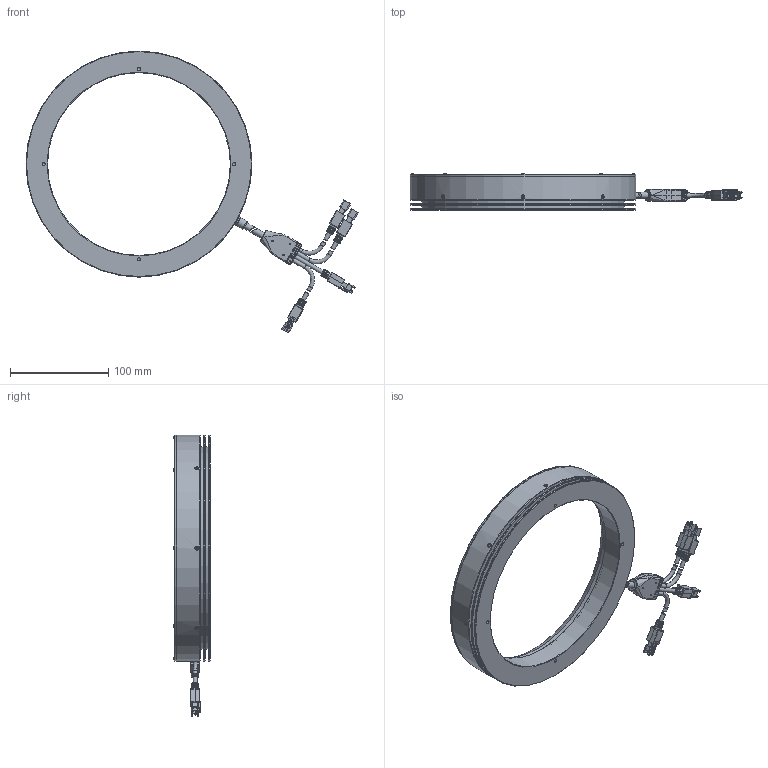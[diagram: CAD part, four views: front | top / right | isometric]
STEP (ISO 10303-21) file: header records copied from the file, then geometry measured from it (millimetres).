
FILE_DESCRIPTION (( 'STEP AP203' ), '1' );
FILE_NAME ('OPT-MSRIP230-X-V1.0尨砩芞.STEP', '2025-02-15T03:52:14', ( '' ), ( '' ), 'SwSTEP 2.0', 'SolidWorks 2016', '' );
FILE_SCHEMA (( 'CONFIG_CONTROL_DESIGN' ));
Length unit declared in the file: millimetre
Products named in the file (1): OPT-MSRIP230-X-V1.0尨砩芞
Bounding box: 338 x 37 x 286.88 mm (x, y, z)
Surface area: 131575.6 mm2 (no closed solid volume)
Topology: 0 solids, 49 shells, 1151 faces, 3161 edges, 2054 vertices
Faces by surface type: plane 629, cylinder 363, cone 88, bspline 56, torus 15
Full cylindrical faces by diameter (mm): 1.1 x8, 1.25 x8, 1.4 x8, 1.5 x3, 1.6 x8, 1.8 x8, 2 x8, 2.4 x8, 2.6 x8, 3.3 x4, 4.1 x10, 5 x1, 6.4 x2, 7.5 x4, 8.6 x1, 9.3 x1, 9.8 x1, 186 x1, 188.2 x1, 189.6 x1, 190.629 x1, 206 x2, 230 x4
Entity records: 42475 total; most frequent: CARTESIAN_POINT 15820, ORIENTED_EDGE 5337, DIRECTION 5041, EDGE_CURVE 2852, VERTEX_POINT 1936, LINE 1775, VECTOR 1775, AXIS2_PLACEMENT_3D 1633
